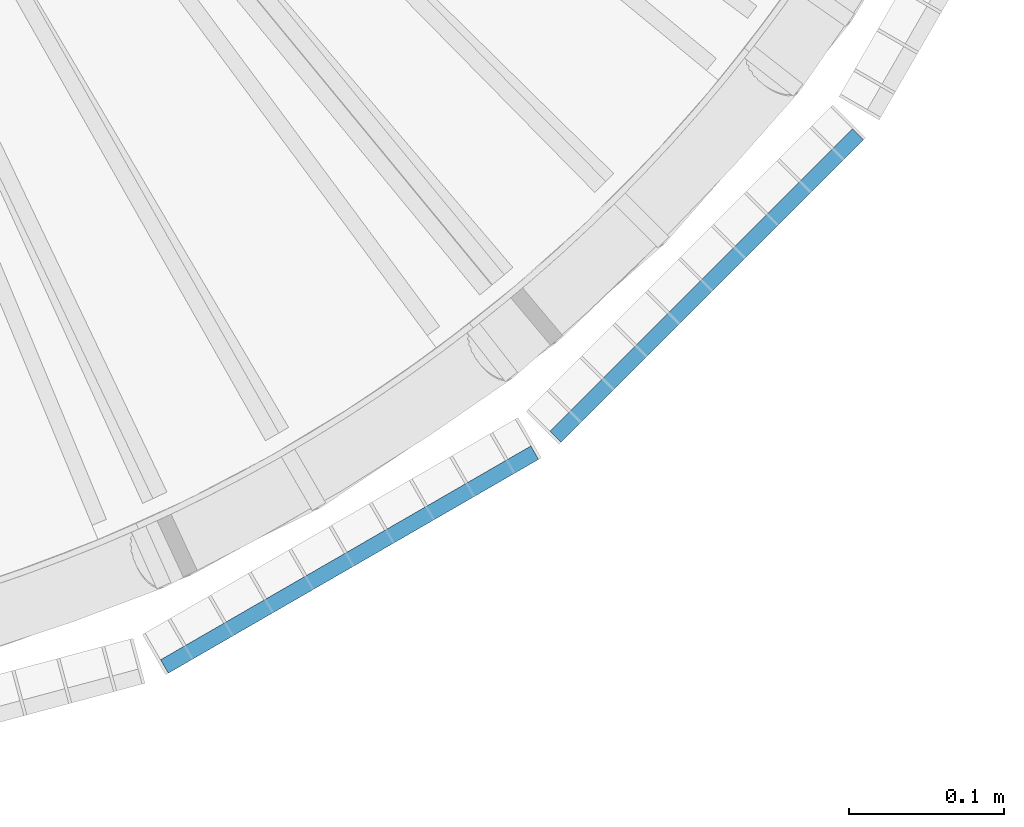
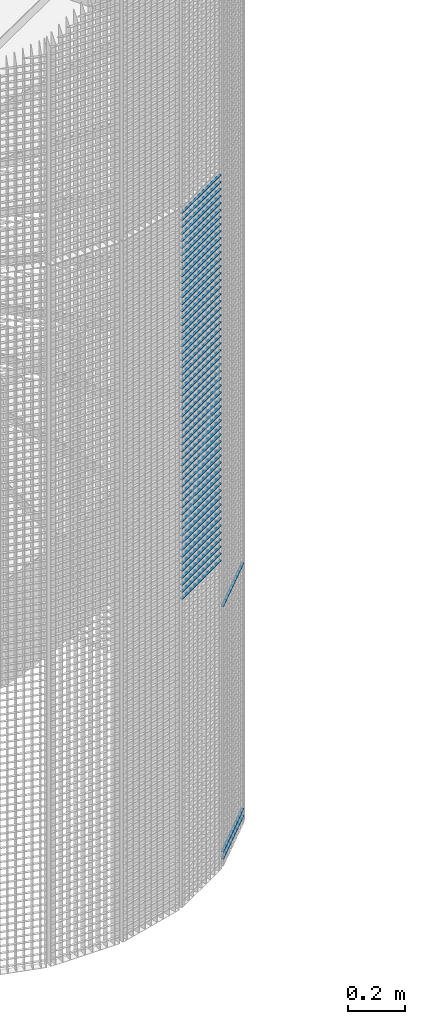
# One storey, part 258 of 1148: 59 beams, 2 elements without a shape of their own.
"""IFC2X3 building model written with IfcOpenShell, lengths in millimetres."""

from ifc_helpers import new_model, si_unit, frame, origin_with_axes, origin_2d_with_axis, place, context, subcontext, project, spatial, rectangle, extrude, material, type_object, element, aggregate, save


model = new_model("IFC2X3")

# Units and contexts
model_context = context("Model", 3, precision=1e-05, world=origin_with_axes())
body_context = subcontext(model_context, "Body", "Model", "MODEL_VIEW")
ifc_project = project(units=[si_unit("LENGTHUNIT", "METRE", prefix="MILLI"), si_unit("AREAUNIT", "SQUARE_METRE"), si_unit("VOLUMEUNIT", "CUBIC_METRE"), si_unit("MASSUNIT", "GRAM", prefix="KILO"), si_unit("TIMEUNIT", "SECOND"), si_unit("PLANEANGLEUNIT", "RADIAN"), si_unit("SOLIDANGLEUNIT", "STERADIAN"), si_unit("THERMODYNAMICTEMPERATUREUNIT", "DEGREE_CELSIUS"), si_unit("LUMINOUSINTENSITYUNIT", "LUMEN")], contexts=[model_context])

# Site, building, storey
site_placement = place(None, origin_with_axes())
site = spatial("IfcSite", under=ifc_project, at=site_placement, Name="Undefined", CompositionType="ELEMENT")
building_placement = place(site_placement, origin_with_axes())
building = spatial("IfcBuilding", under=site, at=building_placement, Name="Undefined", CompositionType="ELEMENT")
storey_placement = place(building_placement, origin_with_axes())
storey = spatial("IfcBuildingStorey", under=building, at=storey_placement, Name="Undefined", CompositionType="ELEMENT", Elevation=0.0)

# Assembly, beams
assembly_1_placement = place(storey_placement, origin_with_axes())
assembly_1 = element("IfcElementAssembly", 1, at=assembly_1_placement, inside=storey, Name="BORDURE", AssemblyPlace="NOTDEFINED", PredefinedType="NOTDEFINED")
ifc_material = material(Name="STEEL/S235JR")
beam_type = type_object("IfcBeamType", Name="PL2*10", PredefinedType="NOTDEFINED")
beam_1_placement = place(assembly_1_placement, frame((689.771348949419, -884.927168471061, 59.9999999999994), z_axis=(0.707106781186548, -0.707106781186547, 0.0), x_axis=(0.707106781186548, 0.707106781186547, 0.0)))
beam_1 = element("IfcBeam", 2, at=beam_1_placement, type_object=beam_type, material=ifc_material, Name="ENTRETOISE", context=body_context, shape_type="SweptSolid", body=[
    extrude(rectangle(XDim=2.0, YDim=10.0, at=origin_2d_with_axis()), frame((275.999999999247, 9.09494701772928e-13, 1.53210777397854e-14), z_axis=(-1.0, 0.0, 0.0), x_axis=(0.0, -1.0, 0.0)), (0.0, 0.0, 1.0), 276.0),
])
beam_2_placement = place(assembly_1_placement, frame((689.771348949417, -884.927168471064, 1110.0), z_axis=(0.707106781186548, -0.707106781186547, 0.0), x_axis=(0.707106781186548, 0.707106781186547, 0.0)))
beam_2 = element("IfcBeam", 3, at=beam_2_placement, type_object=beam_type, material=ifc_material, Name="ENTRETOISE", context=body_context, shape_type="SweptSolid", body=[
    extrude(rectangle(XDim=2.0, YDim=10.0, at=origin_2d_with_axis()), frame((275.999999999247, 9.09494701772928e-13, 1.53210777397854e-14), z_axis=(-1.0, 0.0, 0.0), x_axis=(0.0, -1.0, 0.0)), (0.0, 0.0, 1.0), 276.0),
])
beam_3_placement = place(assembly_1_placement, frame((689.77134894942, -884.92716847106, 29.9999999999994), z_axis=(0.707106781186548, -0.707106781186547, 0.0), x_axis=(0.707106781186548, 0.707106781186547, 0.0)))
beam_3 = element("IfcBeam", 4, at=beam_3_placement, type_object=beam_type, material=ifc_material, Name="ENTRETOISE", context=body_context, shape_type="SweptSolid", body=[
    extrude(rectangle(XDim=2.0, YDim=10.0, at=origin_2d_with_axis()), frame((275.999999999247, 9.09494701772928e-13, 1.53210777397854e-14), z_axis=(-1.0, 0.0, 0.0), x_axis=(0.0, -1.0, 0.0)), (0.0, 0.0, 1.0), 276.0),
])
aggregate(assembly_1, [beam_1, beam_2, beam_3])

assembly_2_placement = place(storey_placement, origin_with_axes())
assembly_2 = element("IfcElementAssembly", 5, at=assembly_2_placement, inside=storey, Name="BORDURE", AssemblyPlace="NOTDEFINED", PredefinedType="NOTDEFINED")
beam_4_placement = place(assembly_2_placement, frame((437.231955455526, -1033.29996828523, 2970.0), z_axis=(0.499999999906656, -0.866025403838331, 0.0), x_axis=(0.866025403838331, 0.499999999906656, 0.0)))
beam_4 = element("IfcBeam", 6, at=beam_4_placement, type_object=beam_type, material=ifc_material, Name="ENTRETOISE", context=body_context, shape_type="SweptSolid", body=[
    extrude(rectangle(XDim=2.0, YDim=10.0, at=origin_2d_with_axis()), frame((275.999999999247, 9.09494701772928e-13, 1.53210777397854e-14), z_axis=(-1.0, 0.0, 0.0), x_axis=(0.0, -1.0, 0.0)), (0.0, 0.0, 1.0), 276.0),
])
beam_5_placement = place(assembly_2_placement, frame((437.231955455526, -1033.29996828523, 2940.0), z_axis=(0.499999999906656, -0.866025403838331, 0.0), x_axis=(0.866025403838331, 0.499999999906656, 0.0)))
beam_5 = element("IfcBeam", 7, at=beam_5_placement, type_object=beam_type, material=ifc_material, Name="ENTRETOISE", context=body_context, shape_type="SweptSolid", body=[
    extrude(rectangle(XDim=2.0, YDim=10.0, at=origin_2d_with_axis()), frame((275.999999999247, 9.09494701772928e-13, 1.53210777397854e-14), z_axis=(-1.0, 0.0, 0.0), x_axis=(0.0, -1.0, 0.0)), (0.0, 0.0, 1.0), 276.0),
])
beam_6_placement = place(assembly_2_placement, frame((437.231955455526, -1033.29996828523, 2910.0), z_axis=(0.499999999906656, -0.866025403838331, 0.0), x_axis=(0.866025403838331, 0.499999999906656, 0.0)))
beam_6 = element("IfcBeam", 8, at=beam_6_placement, type_object=beam_type, material=ifc_material, Name="ENTRETOISE", context=body_context, shape_type="SweptSolid", body=[
    extrude(rectangle(XDim=2.0, YDim=10.0, at=origin_2d_with_axis()), frame((275.999999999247, 9.09494701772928e-13, 1.53210777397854e-14), z_axis=(-1.0, 0.0, 0.0), x_axis=(0.0, -1.0, 0.0)), (0.0, 0.0, 1.0), 276.0),
])
beam_7_placement = place(assembly_2_placement, frame((437.231955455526, -1033.29996828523, 2880.0), z_axis=(0.499999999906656, -0.866025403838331, 0.0), x_axis=(0.866025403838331, 0.499999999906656, 0.0)))
beam_7 = element("IfcBeam", 9, at=beam_7_placement, type_object=beam_type, material=ifc_material, Name="ENTRETOISE", context=body_context, shape_type="SweptSolid", body=[
    extrude(rectangle(XDim=2.0, YDim=10.0, at=origin_2d_with_axis()), frame((275.999999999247, 9.09494701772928e-13, 1.53210777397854e-14), z_axis=(-1.0, 0.0, 0.0), x_axis=(0.0, -1.0, 0.0)), (0.0, 0.0, 1.0), 276.0),
])
beam_8_placement = place(assembly_2_placement, frame((437.231955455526, -1033.29996828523, 2850.0), z_axis=(0.499999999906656, -0.866025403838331, 0.0), x_axis=(0.866025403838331, 0.499999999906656, 0.0)))
beam_8 = element("IfcBeam", 10, at=beam_8_placement, type_object=beam_type, material=ifc_material, Name="ENTRETOISE", context=body_context, shape_type="SweptSolid", body=[
    extrude(rectangle(XDim=2.0, YDim=10.0, at=origin_2d_with_axis()), frame((275.999999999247, 9.09494701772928e-13, 1.53210777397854e-14), z_axis=(-1.0, 0.0, 0.0), x_axis=(0.0, -1.0, 0.0)), (0.0, 0.0, 1.0), 276.0),
])
beam_9_placement = place(assembly_2_placement, frame((437.231955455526, -1033.29996828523, 2820.0), z_axis=(0.499999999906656, -0.866025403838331, 0.0), x_axis=(0.866025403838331, 0.499999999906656, 0.0)))
beam_9 = element("IfcBeam", 11, at=beam_9_placement, type_object=beam_type, material=ifc_material, Name="ENTRETOISE", context=body_context, shape_type="SweptSolid", body=[
    extrude(rectangle(XDim=2.0, YDim=10.0, at=origin_2d_with_axis()), frame((275.999999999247, 9.09494701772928e-13, 1.53210777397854e-14), z_axis=(-1.0, 0.0, 0.0), x_axis=(0.0, -1.0, 0.0)), (0.0, 0.0, 1.0), 276.0),
])
beam_10_placement = place(assembly_2_placement, frame((437.231955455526, -1033.29996828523, 2790.0), z_axis=(0.499999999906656, -0.866025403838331, 0.0), x_axis=(0.866025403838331, 0.499999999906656, 0.0)))
beam_10 = element("IfcBeam", 12, at=beam_10_placement, type_object=beam_type, material=ifc_material, Name="ENTRETOISE", context=body_context, shape_type="SweptSolid", body=[
    extrude(rectangle(XDim=2.0, YDim=10.0, at=origin_2d_with_axis()), frame((275.999999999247, 9.09494701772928e-13, 1.53210777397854e-14), z_axis=(-1.0, 0.0, 0.0), x_axis=(0.0, -1.0, 0.0)), (0.0, 0.0, 1.0), 276.0),
])
beam_11_placement = place(assembly_2_placement, frame((437.231955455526, -1033.29996828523, 2760.0), z_axis=(0.499999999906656, -0.866025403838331, 0.0), x_axis=(0.866025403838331, 0.499999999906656, 0.0)))
beam_11 = element("IfcBeam", 13, at=beam_11_placement, type_object=beam_type, material=ifc_material, Name="ENTRETOISE", context=body_context, shape_type="SweptSolid", body=[
    extrude(rectangle(XDim=2.0, YDim=10.0, at=origin_2d_with_axis()), frame((275.999999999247, 9.09494701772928e-13, 1.53210777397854e-14), z_axis=(-1.0, 0.0, 0.0), x_axis=(0.0, -1.0, 0.0)), (0.0, 0.0, 1.0), 276.0),
])
beam_12_placement = place(assembly_2_placement, frame((437.231955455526, -1033.29996828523, 2730.0), z_axis=(0.499999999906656, -0.866025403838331, 0.0), x_axis=(0.866025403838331, 0.499999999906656, 0.0)))
beam_12 = element("IfcBeam", 14, at=beam_12_placement, type_object=beam_type, material=ifc_material, Name="ENTRETOISE", context=body_context, shape_type="SweptSolid", body=[
    extrude(rectangle(XDim=2.0, YDim=10.0, at=origin_2d_with_axis()), frame((275.999999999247, 9.09494701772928e-13, 1.53210777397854e-14), z_axis=(-1.0, 0.0, 0.0), x_axis=(0.0, -1.0, 0.0)), (0.0, 0.0, 1.0), 276.0),
])
beam_13_placement = place(assembly_2_placement, frame((437.231955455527, -1033.29996828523, 2700.0), z_axis=(0.499999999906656, -0.866025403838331, 0.0), x_axis=(0.866025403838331, 0.499999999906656, 0.0)))
beam_13 = element("IfcBeam", 15, at=beam_13_placement, type_object=beam_type, material=ifc_material, Name="ENTRETOISE", context=body_context, shape_type="SweptSolid", body=[
    extrude(rectangle(XDim=2.0, YDim=10.0, at=origin_2d_with_axis()), frame((275.999999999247, 9.09494701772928e-13, 1.53210777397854e-14), z_axis=(-1.0, 0.0, 0.0), x_axis=(0.0, -1.0, 0.0)), (0.0, 0.0, 1.0), 276.0),
])
beam_14_placement = place(assembly_2_placement, frame((437.231955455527, -1033.29996828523, 2670.0), z_axis=(0.499999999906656, -0.866025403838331, 0.0), x_axis=(0.866025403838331, 0.499999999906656, 0.0)))
beam_14 = element("IfcBeam", 16, at=beam_14_placement, type_object=beam_type, material=ifc_material, Name="ENTRETOISE", context=body_context, shape_type="SweptSolid", body=[
    extrude(rectangle(XDim=2.0, YDim=10.0, at=origin_2d_with_axis()), frame((275.999999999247, 9.09494701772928e-13, 1.53210777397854e-14), z_axis=(-1.0, 0.0, 0.0), x_axis=(0.0, -1.0, 0.0)), (0.0, 0.0, 1.0), 276.0),
])
beam_15_placement = place(assembly_2_placement, frame((437.231955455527, -1033.29996828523, 2640.0), z_axis=(0.499999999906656, -0.866025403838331, 0.0), x_axis=(0.866025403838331, 0.499999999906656, 0.0)))
beam_15 = element("IfcBeam", 17, at=beam_15_placement, type_object=beam_type, material=ifc_material, Name="ENTRETOISE", context=body_context, shape_type="SweptSolid", body=[
    extrude(rectangle(XDim=2.0, YDim=10.0, at=origin_2d_with_axis()), frame((275.999999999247, 9.09494701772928e-13, 1.53210777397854e-14), z_axis=(-1.0, 0.0, 0.0), x_axis=(0.0, -1.0, 0.0)), (0.0, 0.0, 1.0), 276.0),
])
beam_16_placement = place(assembly_2_placement, frame((437.231955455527, -1033.29996828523, 2610.0), z_axis=(0.499999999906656, -0.866025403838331, 0.0), x_axis=(0.866025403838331, 0.499999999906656, 0.0)))
beam_16 = element("IfcBeam", 18, at=beam_16_placement, type_object=beam_type, material=ifc_material, Name="ENTRETOISE", context=body_context, shape_type="SweptSolid", body=[
    extrude(rectangle(XDim=2.0, YDim=10.0, at=origin_2d_with_axis()), frame((275.999999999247, 9.09494701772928e-13, 1.53210777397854e-14), z_axis=(-1.0, 0.0, 0.0), x_axis=(0.0, -1.0, 0.0)), (0.0, 0.0, 1.0), 276.0),
])
beam_17_placement = place(assembly_2_placement, frame((437.231955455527, -1033.29996828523, 2580.0), z_axis=(0.499999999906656, -0.866025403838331, 0.0), x_axis=(0.866025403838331, 0.499999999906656, 0.0)))
beam_17 = element("IfcBeam", 19, at=beam_17_placement, type_object=beam_type, material=ifc_material, Name="ENTRETOISE", context=body_context, shape_type="SweptSolid", body=[
    extrude(rectangle(XDim=2.0, YDim=10.0, at=origin_2d_with_axis()), frame((275.999999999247, 9.09494701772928e-13, 1.53210777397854e-14), z_axis=(-1.0, 0.0, 0.0), x_axis=(0.0, -1.0, 0.0)), (0.0, 0.0, 1.0), 276.0),
])
beam_18_placement = place(assembly_2_placement, frame((437.231955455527, -1033.29996828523, 2550.0), z_axis=(0.499999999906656, -0.866025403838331, 0.0), x_axis=(0.866025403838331, 0.499999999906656, 0.0)))
beam_18 = element("IfcBeam", 20, at=beam_18_placement, type_object=beam_type, material=ifc_material, Name="ENTRETOISE", context=body_context, shape_type="SweptSolid", body=[
    extrude(rectangle(XDim=2.0, YDim=10.0, at=origin_2d_with_axis()), frame((275.999999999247, 9.09494701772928e-13, 1.53210777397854e-14), z_axis=(-1.0, 0.0, 0.0), x_axis=(0.0, -1.0, 0.0)), (0.0, 0.0, 1.0), 276.0),
])
beam_19_placement = place(assembly_2_placement, frame((437.231955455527, -1033.29996828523, 2520.0), z_axis=(0.499999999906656, -0.866025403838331, 0.0), x_axis=(0.866025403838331, 0.499999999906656, 0.0)))
beam_19 = element("IfcBeam", 21, at=beam_19_placement, type_object=beam_type, material=ifc_material, Name="ENTRETOISE", context=body_context, shape_type="SweptSolid", body=[
    extrude(rectangle(XDim=2.0, YDim=10.0, at=origin_2d_with_axis()), frame((275.999999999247, 9.09494701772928e-13, 1.53210777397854e-14), z_axis=(-1.0, 0.0, 0.0), x_axis=(0.0, -1.0, 0.0)), (0.0, 0.0, 1.0), 276.0),
])
beam_20_placement = place(assembly_2_placement, frame((437.231955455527, -1033.29996828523, 2490.0), z_axis=(0.499999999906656, -0.866025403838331, 0.0), x_axis=(0.866025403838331, 0.499999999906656, 0.0)))
beam_20 = element("IfcBeam", 22, at=beam_20_placement, type_object=beam_type, material=ifc_material, Name="ENTRETOISE", context=body_context, shape_type="SweptSolid", body=[
    extrude(rectangle(XDim=2.0, YDim=10.0, at=origin_2d_with_axis()), frame((275.999999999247, 9.09494701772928e-13, 1.53210777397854e-14), z_axis=(-1.0, 0.0, 0.0), x_axis=(0.0, -1.0, 0.0)), (0.0, 0.0, 1.0), 276.0),
])
beam_21_placement = place(assembly_2_placement, frame((437.231955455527, -1033.29996828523, 2460.0), z_axis=(0.499999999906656, -0.866025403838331, 0.0), x_axis=(0.866025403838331, 0.499999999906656, 0.0)))
beam_21 = element("IfcBeam", 23, at=beam_21_placement, type_object=beam_type, material=ifc_material, Name="ENTRETOISE", context=body_context, shape_type="SweptSolid", body=[
    extrude(rectangle(XDim=2.0, YDim=10.0, at=origin_2d_with_axis()), frame((275.999999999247, 9.09494701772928e-13, 1.53210777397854e-14), z_axis=(-1.0, 0.0, 0.0), x_axis=(0.0, -1.0, 0.0)), (0.0, 0.0, 1.0), 276.0),
])
beam_22_placement = place(assembly_2_placement, frame((437.231955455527, -1033.29996828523, 2430.0), z_axis=(0.499999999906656, -0.866025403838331, 0.0), x_axis=(0.866025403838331, 0.499999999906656, 0.0)))
beam_22 = element("IfcBeam", 24, at=beam_22_placement, type_object=beam_type, material=ifc_material, Name="ENTRETOISE", context=body_context, shape_type="SweptSolid", body=[
    extrude(rectangle(XDim=2.0, YDim=10.0, at=origin_2d_with_axis()), frame((275.999999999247, 9.09494701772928e-13, 1.53210777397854e-14), z_axis=(-1.0, 0.0, 0.0), x_axis=(0.0, -1.0, 0.0)), (0.0, 0.0, 1.0), 276.0),
])
beam_23_placement = place(assembly_2_placement, frame((437.231955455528, -1033.29996828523, 2400.0), z_axis=(0.499999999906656, -0.866025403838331, 0.0), x_axis=(0.866025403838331, 0.499999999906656, 0.0)))
beam_23 = element("IfcBeam", 25, at=beam_23_placement, type_object=beam_type, material=ifc_material, Name="ENTRETOISE", context=body_context, shape_type="SweptSolid", body=[
    extrude(rectangle(XDim=2.0, YDim=10.0, at=origin_2d_with_axis()), frame((275.999999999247, 9.09494701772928e-13, 1.53210777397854e-14), z_axis=(-1.0, 0.0, 0.0), x_axis=(0.0, -1.0, 0.0)), (0.0, 0.0, 1.0), 276.0),
])
beam_24_placement = place(assembly_2_placement, frame((437.231955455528, -1033.29996828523, 2370.0), z_axis=(0.499999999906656, -0.866025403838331, 0.0), x_axis=(0.866025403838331, 0.499999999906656, 0.0)))
beam_24 = element("IfcBeam", 26, at=beam_24_placement, type_object=beam_type, material=ifc_material, Name="ENTRETOISE", context=body_context, shape_type="SweptSolid", body=[
    extrude(rectangle(XDim=2.0, YDim=10.0, at=origin_2d_with_axis()), frame((275.999999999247, 9.09494701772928e-13, 1.53210777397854e-14), z_axis=(-1.0, 0.0, 0.0), x_axis=(0.0, -1.0, 0.0)), (0.0, 0.0, 1.0), 276.0),
])
beam_25_placement = place(assembly_2_placement, frame((437.231955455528, -1033.29996828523, 2340.0), z_axis=(0.499999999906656, -0.866025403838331, 0.0), x_axis=(0.866025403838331, 0.499999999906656, 0.0)))
beam_25 = element("IfcBeam", 27, at=beam_25_placement, type_object=beam_type, material=ifc_material, Name="ENTRETOISE", context=body_context, shape_type="SweptSolid", body=[
    extrude(rectangle(XDim=2.0, YDim=10.0, at=origin_2d_with_axis()), frame((275.999999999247, 9.09494701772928e-13, 1.53210777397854e-14), z_axis=(-1.0, 0.0, 0.0), x_axis=(0.0, -1.0, 0.0)), (0.0, 0.0, 1.0), 276.0),
])
beam_26_placement = place(assembly_2_placement, frame((437.231955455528, -1033.29996828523, 2310.0), z_axis=(0.499999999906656, -0.866025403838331, 0.0), x_axis=(0.866025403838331, 0.499999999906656, 0.0)))
beam_26 = element("IfcBeam", 28, at=beam_26_placement, type_object=beam_type, material=ifc_material, Name="ENTRETOISE", context=body_context, shape_type="SweptSolid", body=[
    extrude(rectangle(XDim=2.0, YDim=10.0, at=origin_2d_with_axis()), frame((275.999999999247, 9.09494701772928e-13, 1.53210777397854e-14), z_axis=(-1.0, 0.0, 0.0), x_axis=(0.0, -1.0, 0.0)), (0.0, 0.0, 1.0), 276.0),
])
beam_27_placement = place(assembly_2_placement, frame((437.231955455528, -1033.29996828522, 2280.0), z_axis=(0.499999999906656, -0.866025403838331, 0.0), x_axis=(0.866025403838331, 0.499999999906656, 0.0)))
beam_27 = element("IfcBeam", 29, at=beam_27_placement, type_object=beam_type, material=ifc_material, Name="ENTRETOISE", context=body_context, shape_type="SweptSolid", body=[
    extrude(rectangle(XDim=2.0, YDim=10.0, at=origin_2d_with_axis()), frame((275.999999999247, 9.09494701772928e-13, 1.53210777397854e-14), z_axis=(-1.0, 0.0, 0.0), x_axis=(0.0, -1.0, 0.0)), (0.0, 0.0, 1.0), 276.0),
])
beam_28_placement = place(assembly_2_placement, frame((437.231955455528, -1033.29996828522, 2250.0), z_axis=(0.499999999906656, -0.866025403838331, 0.0), x_axis=(0.866025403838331, 0.499999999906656, 0.0)))
beam_28 = element("IfcBeam", 30, at=beam_28_placement, type_object=beam_type, material=ifc_material, Name="ENTRETOISE", context=body_context, shape_type="SweptSolid", body=[
    extrude(rectangle(XDim=2.0, YDim=10.0, at=origin_2d_with_axis()), frame((275.999999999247, 9.09494701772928e-13, 1.53210777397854e-14), z_axis=(-1.0, 0.0, 0.0), x_axis=(0.0, -1.0, 0.0)), (0.0, 0.0, 1.0), 276.0),
])
beam_29_placement = place(assembly_2_placement, frame((437.231955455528, -1033.29996828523, 2220.0), z_axis=(0.499999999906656, -0.866025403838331, 0.0), x_axis=(0.866025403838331, 0.499999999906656, 0.0)))
beam_29 = element("IfcBeam", 31, at=beam_29_placement, type_object=beam_type, material=ifc_material, Name="ENTRETOISE", context=body_context, shape_type="SweptSolid", body=[
    extrude(rectangle(XDim=2.0, YDim=10.0, at=origin_2d_with_axis()), frame((275.999999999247, 9.09494701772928e-13, 1.53210777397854e-14), z_axis=(-1.0, 0.0, 0.0), x_axis=(0.0, -1.0, 0.0)), (0.0, 0.0, 1.0), 276.0),
])
beam_30_placement = place(assembly_2_placement, frame((437.231955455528, -1033.29996828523, 2190.0), z_axis=(0.499999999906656, -0.866025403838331, 0.0), x_axis=(0.866025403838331, 0.499999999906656, 0.0)))
beam_30 = element("IfcBeam", 32, at=beam_30_placement, type_object=beam_type, material=ifc_material, Name="ENTRETOISE", context=body_context, shape_type="SweptSolid", body=[
    extrude(rectangle(XDim=2.0, YDim=10.0, at=origin_2d_with_axis()), frame((275.999999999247, 9.09494701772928e-13, 1.53210777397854e-14), z_axis=(-1.0, 0.0, 0.0), x_axis=(0.0, -1.0, 0.0)), (0.0, 0.0, 1.0), 276.0),
])
beam_31_placement = place(assembly_2_placement, frame((437.231955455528, -1033.29996828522, 2160.0), z_axis=(0.499999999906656, -0.866025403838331, 0.0), x_axis=(0.866025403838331, 0.499999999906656, 0.0)))
beam_31 = element("IfcBeam", 33, at=beam_31_placement, type_object=beam_type, material=ifc_material, Name="ENTRETOISE", context=body_context, shape_type="SweptSolid", body=[
    extrude(rectangle(XDim=2.0, YDim=10.0, at=origin_2d_with_axis()), frame((275.999999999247, 9.09494701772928e-13, 1.53210777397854e-14), z_axis=(-1.0, 0.0, 0.0), x_axis=(0.0, -1.0, 0.0)), (0.0, 0.0, 1.0), 276.0),
])
beam_32_placement = place(assembly_2_placement, frame((437.231955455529, -1033.29996828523, 2130.0), z_axis=(0.499999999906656, -0.866025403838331, 0.0), x_axis=(0.866025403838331, 0.499999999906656, 0.0)))
beam_32 = element("IfcBeam", 34, at=beam_32_placement, type_object=beam_type, material=ifc_material, Name="ENTRETOISE", context=body_context, shape_type="SweptSolid", body=[
    extrude(rectangle(XDim=2.0, YDim=10.0, at=origin_2d_with_axis()), frame((275.999999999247, 9.09494701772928e-13, 1.53210777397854e-14), z_axis=(-1.0, 0.0, 0.0), x_axis=(0.0, -1.0, 0.0)), (0.0, 0.0, 1.0), 276.0),
])
beam_33_placement = place(assembly_2_placement, frame((437.231955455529, -1033.29996828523, 2100.0), z_axis=(0.499999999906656, -0.866025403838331, 0.0), x_axis=(0.866025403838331, 0.499999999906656, 0.0)))
beam_33 = element("IfcBeam", 35, at=beam_33_placement, type_object=beam_type, material=ifc_material, Name="ENTRETOISE", context=body_context, shape_type="SweptSolid", body=[
    extrude(rectangle(XDim=2.0, YDim=10.0, at=origin_2d_with_axis()), frame((275.999999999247, 9.09494701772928e-13, 1.53210777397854e-14), z_axis=(-1.0, 0.0, 0.0), x_axis=(0.0, -1.0, 0.0)), (0.0, 0.0, 1.0), 276.0),
])
beam_34_placement = place(assembly_2_placement, frame((437.231955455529, -1033.29996828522, 2070.0), z_axis=(0.499999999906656, -0.866025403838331, 0.0), x_axis=(0.866025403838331, 0.499999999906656, 0.0)))
beam_34 = element("IfcBeam", 36, at=beam_34_placement, type_object=beam_type, material=ifc_material, Name="ENTRETOISE", context=body_context, shape_type="SweptSolid", body=[
    extrude(rectangle(XDim=2.0, YDim=10.0, at=origin_2d_with_axis()), frame((275.999999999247, 9.09494701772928e-13, 1.53210777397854e-14), z_axis=(-1.0, 0.0, 0.0), x_axis=(0.0, -1.0, 0.0)), (0.0, 0.0, 1.0), 276.0),
])
beam_35_placement = place(assembly_2_placement, frame((437.231955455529, -1033.29996828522, 2040.0), z_axis=(0.499999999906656, -0.866025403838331, 0.0), x_axis=(0.866025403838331, 0.499999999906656, 0.0)))
beam_35 = element("IfcBeam", 37, at=beam_35_placement, type_object=beam_type, material=ifc_material, Name="ENTRETOISE", context=body_context, shape_type="SweptSolid", body=[
    extrude(rectangle(XDim=2.0, YDim=10.0, at=origin_2d_with_axis()), frame((275.999999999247, 9.09494701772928e-13, 1.53210777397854e-14), z_axis=(-1.0, 0.0, 0.0), x_axis=(0.0, -1.0, 0.0)), (0.0, 0.0, 1.0), 276.0),
])
beam_36_placement = place(assembly_2_placement, frame((437.231955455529, -1033.29996828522, 2010.0), z_axis=(0.499999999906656, -0.866025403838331, 0.0), x_axis=(0.866025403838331, 0.499999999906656, 0.0)))
beam_36 = element("IfcBeam", 38, at=beam_36_placement, type_object=beam_type, material=ifc_material, Name="ENTRETOISE", context=body_context, shape_type="SweptSolid", body=[
    extrude(rectangle(XDim=2.0, YDim=10.0, at=origin_2d_with_axis()), frame((275.999999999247, 9.09494701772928e-13, 1.53210777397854e-14), z_axis=(-1.0, 0.0, 0.0), x_axis=(0.0, -1.0, 0.0)), (0.0, 0.0, 1.0), 276.0),
])
beam_37_placement = place(assembly_2_placement, frame((437.231955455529, -1033.29996828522, 1980.0), z_axis=(0.499999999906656, -0.866025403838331, 0.0), x_axis=(0.866025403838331, 0.499999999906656, 0.0)))
beam_37 = element("IfcBeam", 39, at=beam_37_placement, type_object=beam_type, material=ifc_material, Name="ENTRETOISE", context=body_context, shape_type="SweptSolid", body=[
    extrude(rectangle(XDim=2.0, YDim=10.0, at=origin_2d_with_axis()), frame((275.999999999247, 9.09494701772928e-13, 1.53210777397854e-14), z_axis=(-1.0, 0.0, 0.0), x_axis=(0.0, -1.0, 0.0)), (0.0, 0.0, 1.0), 276.0),
])
beam_38_placement = place(assembly_2_placement, frame((437.231955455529, -1033.29996828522, 1950.0), z_axis=(0.499999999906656, -0.866025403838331, 0.0), x_axis=(0.866025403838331, 0.499999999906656, 0.0)))
beam_38 = element("IfcBeam", 40, at=beam_38_placement, type_object=beam_type, material=ifc_material, Name="ENTRETOISE", context=body_context, shape_type="SweptSolid", body=[
    extrude(rectangle(XDim=2.0, YDim=10.0, at=origin_2d_with_axis()), frame((275.999999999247, 9.09494701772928e-13, 1.53210777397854e-14), z_axis=(-1.0, 0.0, 0.0), x_axis=(0.0, -1.0, 0.0)), (0.0, 0.0, 1.0), 276.0),
])
beam_39_placement = place(assembly_2_placement, frame((437.231955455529, -1033.29996828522, 1920.0), z_axis=(0.499999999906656, -0.866025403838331, 0.0), x_axis=(0.866025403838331, 0.499999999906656, 0.0)))
beam_39 = element("IfcBeam", 41, at=beam_39_placement, type_object=beam_type, material=ifc_material, Name="ENTRETOISE", context=body_context, shape_type="SweptSolid", body=[
    extrude(rectangle(XDim=2.0, YDim=10.0, at=origin_2d_with_axis()), frame((275.999999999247, 9.09494701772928e-13, 1.53210777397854e-14), z_axis=(-1.0, 0.0, 0.0), x_axis=(0.0, -1.0, 0.0)), (0.0, 0.0, 1.0), 276.0),
])
beam_40_placement = place(assembly_2_placement, frame((437.231955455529, -1033.29996828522, 1890.0), z_axis=(0.499999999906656, -0.866025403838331, 0.0), x_axis=(0.866025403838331, 0.499999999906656, 0.0)))
beam_40 = element("IfcBeam", 42, at=beam_40_placement, type_object=beam_type, material=ifc_material, Name="ENTRETOISE", context=body_context, shape_type="SweptSolid", body=[
    extrude(rectangle(XDim=2.0, YDim=10.0, at=origin_2d_with_axis()), frame((275.999999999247, 9.09494701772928e-13, 1.53210777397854e-14), z_axis=(-1.0, 0.0, 0.0), x_axis=(0.0, -1.0, 0.0)), (0.0, 0.0, 1.0), 276.0),
])
beam_41_placement = place(assembly_2_placement, frame((437.231955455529, -1033.29996828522, 1860.0), z_axis=(0.499999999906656, -0.866025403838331, 0.0), x_axis=(0.866025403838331, 0.499999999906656, 0.0)))
beam_41 = element("IfcBeam", 43, at=beam_41_placement, type_object=beam_type, material=ifc_material, Name="ENTRETOISE", context=body_context, shape_type="SweptSolid", body=[
    extrude(rectangle(XDim=2.0, YDim=10.0, at=origin_2d_with_axis()), frame((275.999999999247, 9.09494701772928e-13, 1.53210777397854e-14), z_axis=(-1.0, 0.0, 0.0), x_axis=(0.0, -1.0, 0.0)), (0.0, 0.0, 1.0), 276.0),
])
beam_42_placement = place(assembly_2_placement, frame((437.231955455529, -1033.29996828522, 1830.0), z_axis=(0.499999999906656, -0.866025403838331, 0.0), x_axis=(0.866025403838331, 0.499999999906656, 0.0)))
beam_42 = element("IfcBeam", 44, at=beam_42_placement, type_object=beam_type, material=ifc_material, Name="ENTRETOISE", context=body_context, shape_type="SweptSolid", body=[
    extrude(rectangle(XDim=2.0, YDim=10.0, at=origin_2d_with_axis()), frame((275.999999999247, 9.09494701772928e-13, 1.53210777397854e-14), z_axis=(-1.0, 0.0, 0.0), x_axis=(0.0, -1.0, 0.0)), (0.0, 0.0, 1.0), 276.0),
])
beam_43_placement = place(assembly_2_placement, frame((437.231955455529, -1033.29996828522, 1800.0), z_axis=(0.499999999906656, -0.866025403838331, 0.0), x_axis=(0.866025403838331, 0.499999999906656, 0.0)))
beam_43 = element("IfcBeam", 45, at=beam_43_placement, type_object=beam_type, material=ifc_material, Name="ENTRETOISE", context=body_context, shape_type="SweptSolid", body=[
    extrude(rectangle(XDim=2.0, YDim=10.0, at=origin_2d_with_axis()), frame((275.999999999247, 9.09494701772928e-13, 1.53210777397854e-14), z_axis=(-1.0, 0.0, 0.0), x_axis=(0.0, -1.0, 0.0)), (0.0, 0.0, 1.0), 276.0),
])
beam_44_placement = place(assembly_2_placement, frame((437.231955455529, -1033.29996828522, 1770.0), z_axis=(0.499999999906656, -0.866025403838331, 0.0), x_axis=(0.866025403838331, 0.499999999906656, 0.0)))
beam_44 = element("IfcBeam", 46, at=beam_44_placement, type_object=beam_type, material=ifc_material, Name="ENTRETOISE", context=body_context, shape_type="SweptSolid", body=[
    extrude(rectangle(XDim=2.0, YDim=10.0, at=origin_2d_with_axis()), frame((275.999999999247, 9.09494701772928e-13, 1.53210777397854e-14), z_axis=(-1.0, 0.0, 0.0), x_axis=(0.0, -1.0, 0.0)), (0.0, 0.0, 1.0), 276.0),
])
beam_45_placement = place(assembly_2_placement, frame((437.23195545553, -1033.29996828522, 1740.0), z_axis=(0.499999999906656, -0.866025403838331, 0.0), x_axis=(0.866025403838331, 0.499999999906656, 0.0)))
beam_45 = element("IfcBeam", 47, at=beam_45_placement, type_object=beam_type, material=ifc_material, Name="ENTRETOISE", context=body_context, shape_type="SweptSolid", body=[
    extrude(rectangle(XDim=2.0, YDim=10.0, at=origin_2d_with_axis()), frame((275.999999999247, 9.09494701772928e-13, 1.53210777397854e-14), z_axis=(-1.0, 0.0, 0.0), x_axis=(0.0, -1.0, 0.0)), (0.0, 0.0, 1.0), 276.0),
])
beam_46_placement = place(assembly_2_placement, frame((437.23195545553, -1033.29996828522, 1710.0), z_axis=(0.499999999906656, -0.866025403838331, 0.0), x_axis=(0.866025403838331, 0.499999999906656, 0.0)))
beam_46 = element("IfcBeam", 48, at=beam_46_placement, type_object=beam_type, material=ifc_material, Name="ENTRETOISE", context=body_context, shape_type="SweptSolid", body=[
    extrude(rectangle(XDim=2.0, YDim=10.0, at=origin_2d_with_axis()), frame((275.999999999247, 9.09494701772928e-13, 1.53210777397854e-14), z_axis=(-1.0, 0.0, 0.0), x_axis=(0.0, -1.0, 0.0)), (0.0, 0.0, 1.0), 276.0),
])
beam_47_placement = place(assembly_2_placement, frame((437.23195545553, -1033.29996828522, 1680.0), z_axis=(0.499999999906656, -0.866025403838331, 0.0), x_axis=(0.866025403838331, 0.499999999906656, 0.0)))
beam_47 = element("IfcBeam", 49, at=beam_47_placement, type_object=beam_type, material=ifc_material, Name="ENTRETOISE", context=body_context, shape_type="SweptSolid", body=[
    extrude(rectangle(XDim=2.0, YDim=10.0, at=origin_2d_with_axis()), frame((275.999999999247, 9.09494701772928e-13, 1.53210777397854e-14), z_axis=(-1.0, 0.0, 0.0), x_axis=(0.0, -1.0, 0.0)), (0.0, 0.0, 1.0), 276.0),
])
beam_48_placement = place(assembly_2_placement, frame((437.23195545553, -1033.29996828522, 1650.0), z_axis=(0.499999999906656, -0.866025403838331, 0.0), x_axis=(0.866025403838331, 0.499999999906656, 0.0)))
beam_48 = element("IfcBeam", 50, at=beam_48_placement, type_object=beam_type, material=ifc_material, Name="ENTRETOISE", context=body_context, shape_type="SweptSolid", body=[
    extrude(rectangle(XDim=2.0, YDim=10.0, at=origin_2d_with_axis()), frame((275.999999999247, 9.09494701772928e-13, 1.53210777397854e-14), z_axis=(-1.0, 0.0, 0.0), x_axis=(0.0, -1.0, 0.0)), (0.0, 0.0, 1.0), 276.0),
])
beam_49_placement = place(assembly_2_placement, frame((437.23195545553, -1033.29996828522, 1620.0), z_axis=(0.499999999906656, -0.866025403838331, 0.0), x_axis=(0.866025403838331, 0.499999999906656, 0.0)))
beam_49 = element("IfcBeam", 51, at=beam_49_placement, type_object=beam_type, material=ifc_material, Name="ENTRETOISE", context=body_context, shape_type="SweptSolid", body=[
    extrude(rectangle(XDim=2.0, YDim=10.0, at=origin_2d_with_axis()), frame((275.999999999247, 9.09494701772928e-13, 1.53210777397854e-14), z_axis=(-1.0, 0.0, 0.0), x_axis=(0.0, -1.0, 0.0)), (0.0, 0.0, 1.0), 276.0),
])
beam_50_placement = place(assembly_2_placement, frame((437.23195545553, -1033.29996828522, 1590.0), z_axis=(0.499999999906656, -0.866025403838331, 0.0), x_axis=(0.866025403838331, 0.499999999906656, 0.0)))
beam_50 = element("IfcBeam", 52, at=beam_50_placement, type_object=beam_type, material=ifc_material, Name="ENTRETOISE", context=body_context, shape_type="SweptSolid", body=[
    extrude(rectangle(XDim=2.0, YDim=10.0, at=origin_2d_with_axis()), frame((275.999999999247, 9.09494701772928e-13, 1.53210777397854e-14), z_axis=(-1.0, 0.0, 0.0), x_axis=(0.0, -1.0, 0.0)), (0.0, 0.0, 1.0), 276.0),
])
beam_51_placement = place(assembly_2_placement, frame((437.23195545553, -1033.29996828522, 1560.0), z_axis=(0.499999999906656, -0.866025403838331, 0.0), x_axis=(0.866025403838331, 0.499999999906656, 0.0)))
beam_51 = element("IfcBeam", 53, at=beam_51_placement, type_object=beam_type, material=ifc_material, Name="ENTRETOISE", context=body_context, shape_type="SweptSolid", body=[
    extrude(rectangle(XDim=2.0, YDim=10.0, at=origin_2d_with_axis()), frame((275.999999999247, 9.09494701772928e-13, 1.53210777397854e-14), z_axis=(-1.0, 0.0, 0.0), x_axis=(0.0, -1.0, 0.0)), (0.0, 0.0, 1.0), 276.0),
])
beam_52_placement = place(assembly_2_placement, frame((437.23195545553, -1033.29996828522, 1530.0), z_axis=(0.499999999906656, -0.866025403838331, 0.0), x_axis=(0.866025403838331, 0.499999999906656, 0.0)))
beam_52 = element("IfcBeam", 54, at=beam_52_placement, type_object=beam_type, material=ifc_material, Name="ENTRETOISE", context=body_context, shape_type="SweptSolid", body=[
    extrude(rectangle(XDim=2.0, YDim=10.0, at=origin_2d_with_axis()), frame((275.999999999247, 9.09494701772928e-13, 1.53210777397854e-14), z_axis=(-1.0, 0.0, 0.0), x_axis=(0.0, -1.0, 0.0)), (0.0, 0.0, 1.0), 276.0),
])
beam_53_placement = place(assembly_2_placement, frame((437.23195545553, -1033.29996828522, 1500.0), z_axis=(0.499999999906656, -0.866025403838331, 0.0), x_axis=(0.866025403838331, 0.499999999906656, 0.0)))
beam_53 = element("IfcBeam", 55, at=beam_53_placement, type_object=beam_type, material=ifc_material, Name="ENTRETOISE", context=body_context, shape_type="SweptSolid", body=[
    extrude(rectangle(XDim=2.0, YDim=10.0, at=origin_2d_with_axis()), frame((275.999999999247, 9.09494701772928e-13, 1.53210777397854e-14), z_axis=(-1.0, 0.0, 0.0), x_axis=(0.0, -1.0, 0.0)), (0.0, 0.0, 1.0), 276.0),
])
beam_54_placement = place(assembly_2_placement, frame((437.231955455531, -1033.29996828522, 1470.0), z_axis=(0.499999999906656, -0.866025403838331, 0.0), x_axis=(0.866025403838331, 0.499999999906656, 0.0)))
beam_54 = element("IfcBeam", 56, at=beam_54_placement, type_object=beam_type, material=ifc_material, Name="ENTRETOISE", context=body_context, shape_type="SweptSolid", body=[
    extrude(rectangle(XDim=2.0, YDim=10.0, at=origin_2d_with_axis()), frame((275.999999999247, 9.09494701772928e-13, 1.53210777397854e-14), z_axis=(-1.0, 0.0, 0.0), x_axis=(0.0, -1.0, 0.0)), (0.0, 0.0, 1.0), 276.0),
])
beam_55_placement = place(assembly_2_placement, frame((437.231955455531, -1033.29996828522, 1440.0), z_axis=(0.499999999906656, -0.866025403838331, 0.0), x_axis=(0.866025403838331, 0.499999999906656, 0.0)))
beam_55 = element("IfcBeam", 57, at=beam_55_placement, type_object=beam_type, material=ifc_material, Name="ENTRETOISE", context=body_context, shape_type="SweptSolid", body=[
    extrude(rectangle(XDim=2.0, YDim=10.0, at=origin_2d_with_axis()), frame((275.999999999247, 9.09494701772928e-13, 1.53210777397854e-14), z_axis=(-1.0, 0.0, 0.0), x_axis=(0.0, -1.0, 0.0)), (0.0, 0.0, 1.0), 276.0),
])
beam_56_placement = place(assembly_2_placement, frame((437.231955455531, -1033.29996828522, 1410.0), z_axis=(0.499999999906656, -0.866025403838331, 0.0), x_axis=(0.866025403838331, 0.499999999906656, 0.0)))
beam_56 = element("IfcBeam", 58, at=beam_56_placement, type_object=beam_type, material=ifc_material, Name="ENTRETOISE", context=body_context, shape_type="SweptSolid", body=[
    extrude(rectangle(XDim=2.0, YDim=10.0, at=origin_2d_with_axis()), frame((275.999999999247, 9.09494701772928e-13, 1.53210777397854e-14), z_axis=(-1.0, 0.0, 0.0), x_axis=(0.0, -1.0, 0.0)), (0.0, 0.0, 1.0), 276.0),
])
beam_57_placement = place(assembly_2_placement, frame((437.231955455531, -1033.29996828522, 1380.0), z_axis=(0.499999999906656, -0.866025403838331, 0.0), x_axis=(0.866025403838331, 0.499999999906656, 0.0)))
beam_57 = element("IfcBeam", 59, at=beam_57_placement, type_object=beam_type, material=ifc_material, Name="ENTRETOISE", context=body_context, shape_type="SweptSolid", body=[
    extrude(rectangle(XDim=2.0, YDim=10.0, at=origin_2d_with_axis()), frame((275.999999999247, 9.09494701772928e-13, 1.53210777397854e-14), z_axis=(-1.0, 0.0, 0.0), x_axis=(0.0, -1.0, 0.0)), (0.0, 0.0, 1.0), 276.0),
])
beam_58_placement = place(assembly_2_placement, frame((437.231955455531, -1033.29996828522, 1350.0), z_axis=(0.499999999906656, -0.866025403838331, 0.0), x_axis=(0.866025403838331, 0.499999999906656, 0.0)))
beam_58 = element("IfcBeam", 60, at=beam_58_placement, type_object=beam_type, material=ifc_material, Name="ENTRETOISE", context=body_context, shape_type="SweptSolid", body=[
    extrude(rectangle(XDim=2.0, YDim=10.0, at=origin_2d_with_axis()), frame((275.999999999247, 9.09494701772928e-13, 1.53210777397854e-14), z_axis=(-1.0, 0.0, 0.0), x_axis=(0.0, -1.0, 0.0)), (0.0, 0.0, 1.0), 276.0),
])
beam_59_placement = place(assembly_2_placement, frame((437.231955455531, -1033.29996828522, 1320.0), z_axis=(0.499999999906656, -0.866025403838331, 0.0), x_axis=(0.866025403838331, 0.499999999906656, 0.0)))
beam_59 = element("IfcBeam", 61, at=beam_59_placement, type_object=beam_type, material=ifc_material, Name="ENTRETOISE", context=body_context, shape_type="SweptSolid", body=[
    extrude(rectangle(XDim=2.0, YDim=10.0, at=origin_2d_with_axis()), frame((275.999999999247, 9.09494701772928e-13, 1.53210777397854e-14), z_axis=(-1.0, 0.0, 0.0), x_axis=(0.0, -1.0, 0.0)), (0.0, 0.0, 1.0), 276.0),
])
aggregate(assembly_2, [beam_4, beam_5, beam_6, beam_7, beam_8, beam_9, beam_10, beam_11, beam_12, beam_13, beam_14, beam_15, beam_16, beam_17, beam_18, beam_19, beam_20, beam_21, beam_22, beam_23, beam_24, beam_25, beam_26, beam_27, beam_28, beam_29, beam_30, beam_31, beam_32, beam_33, beam_34, beam_35, beam_36, beam_37, beam_38, beam_39, beam_40, beam_41, beam_42, beam_43, beam_44, beam_45, beam_46, beam_47, beam_48, beam_49, beam_50, beam_51, beam_52, beam_53, beam_54, beam_55, beam_56, beam_57, beam_58, beam_59])

save(model, "model.ifc")
